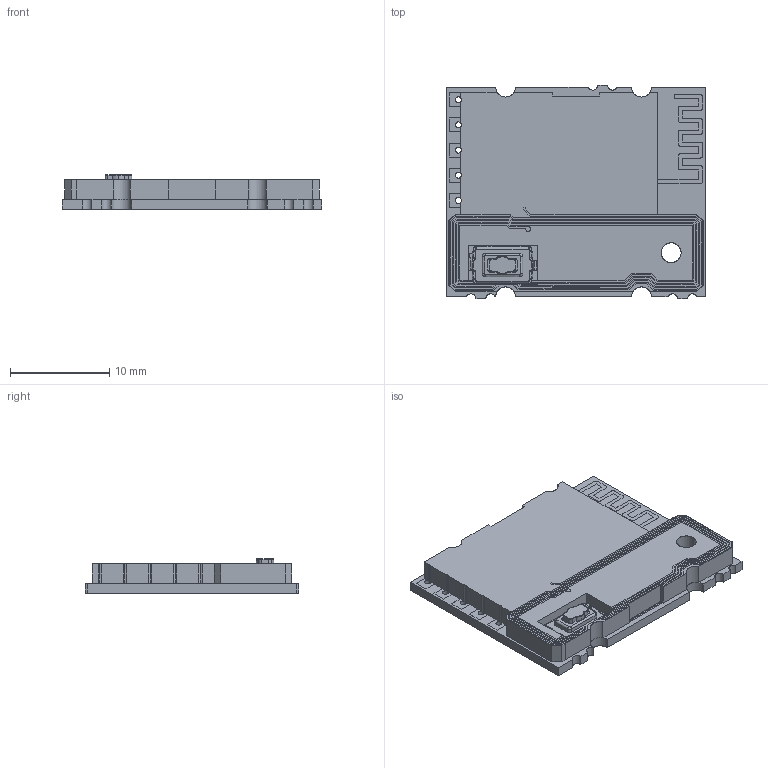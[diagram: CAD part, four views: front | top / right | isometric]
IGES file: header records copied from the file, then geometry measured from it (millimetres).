
Start section: SolidWorks IGES file using analytic representation for surfaces
Global section: file name: F:\Daten SK\Projekte\SVN\SVN_Mechanic_PTM33xY\Source\CAD_Data\C99_L01_PTM535BZ_PCB_board_customer_Sample.IGS; native system: SolidWorks 2021; preprocessor: SolidWorks 2021; author: sven.klausnitzer; date: 210310.151052; units: millimetre
Bounding box: 26.2 x 21.55 x 3.5 mm (x, y, z)
Surface area: 1549.6 mm2 (no closed solid volume)
Topology: 0 solids, 0 shells, 770 faces, 5412 edges, 5412 vertices
Faces by surface type: bspline 624, revolution 146
